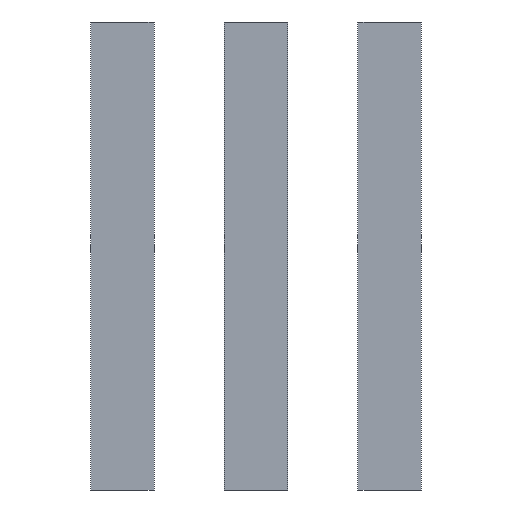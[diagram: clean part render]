
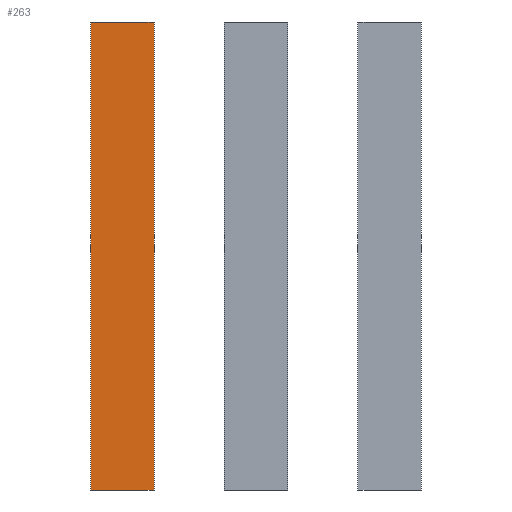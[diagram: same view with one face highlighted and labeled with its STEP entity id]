
A CAD part, front view. The second image highlights one B-rep face of the part: STEP entity #263.
In plain terms, the highlighted planar face has unit normal (0, -1, 0).
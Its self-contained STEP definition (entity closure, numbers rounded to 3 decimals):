
#47 = EDGE_CURVE('',#48,#50,#52,.T.);
#48 = VERTEX_POINT('',#49);
#49 = CARTESIAN_POINT('',(-36.,-34.,-115.));
#50 = VERTEX_POINT('',#51);
#51 = CARTESIAN_POINT('',(-36.,-34.,-45.));
#52 = SURFACE_CURVE('',#53,(#57,#69),.PCURVE_S1.);
#53 = LINE('',#54,#55);
#54 = CARTESIAN_POINT('',(-36.,-34.,-115.));
#55 = VECTOR('',#56,1.);
#56 = DIRECTION('',(0.,0.,1.));
#57 = PCURVE('',#58,#63);
#58 = PLANE('',#59);
#59 = AXIS2_PLACEMENT_3D('',#60,#61,#62);
#60 = CARTESIAN_POINT('',(-36.,-34.,-115.));
#61 = DIRECTION('',(1.,0.,0.));
#62 = DIRECTION('',(0.,0.,1.));
#63 = DEFINITIONAL_REPRESENTATION('',(#64),#68);
#64 = LINE('',#65,#66);
#65 = CARTESIAN_POINT('',(0.,0.));
#66 = VECTOR('',#67,1.);
#67 = DIRECTION('',(1.,0.));
#68 = ( GEOMETRIC_REPRESENTATION_CONTEXT(2) 
PARAMETRIC_REPRESENTATION_CONTEXT() REPRESENTATION_CONTEXT('2D SPACE',''
  ) );
#69 = PCURVE('',#70,#75);
#70 = PLANE('',#71);
#71 = AXIS2_PLACEMENT_3D('',#72,#73,#74);
#72 = CARTESIAN_POINT('',(-36.,-34.,-115.));
#73 = DIRECTION('',(0.,1.,0.));
#74 = DIRECTION('',(0.,0.,1.));
#75 = DEFINITIONAL_REPRESENTATION('',(#76),#80);
#76 = LINE('',#77,#78);
#77 = CARTESIAN_POINT('',(0.,0.));
#78 = VECTOR('',#79,1.);
#79 = DIRECTION('',(1.,0.));
#80 = ( GEOMETRIC_REPRESENTATION_CONTEXT(2) 
PARAMETRIC_REPRESENTATION_CONTEXT() REPRESENTATION_CONTEXT('2D SPACE',''
  ) );
#98 = PLANE('',#99);
#99 = AXIS2_PLACEMENT_3D('',#100,#101,#102);
#100 = CARTESIAN_POINT('',(-36.,-34.,-115.));
#101 = DIRECTION('',(0.,0.,1.));
#102 = DIRECTION('',(1.,0.,0.));
#152 = PLANE('',#153);
#153 = AXIS2_PLACEMENT_3D('',#154,#155,#156);
#154 = CARTESIAN_POINT('',(-36.,-34.,-45.));
#155 = DIRECTION('',(0.,0.,1.));
#156 = DIRECTION('',(1.,0.,0.));
#167 = EDGE_CURVE('',#168,#170,#172,.T.);
#168 = VERTEX_POINT('',#169);
#169 = CARTESIAN_POINT('',(-26.5,-34.,-115.));
#170 = VERTEX_POINT('',#171);
#171 = CARTESIAN_POINT('',(-26.5,-34.,-45.));
#172 = SURFACE_CURVE('',#173,(#177,#189),.PCURVE_S1.);
#173 = LINE('',#174,#175);
#174 = CARTESIAN_POINT('',(-26.5,-34.,-115.));
#175 = VECTOR('',#176,1.);
#176 = DIRECTION('',(0.,0.,1.));
#177 = PCURVE('',#178,#183);
#178 = PLANE('',#179);
#179 = AXIS2_PLACEMENT_3D('',#180,#181,#182);
#180 = CARTESIAN_POINT('',(-26.5,-34.,-115.));
#181 = DIRECTION('',(1.,0.,0.));
#182 = DIRECTION('',(0.,0.,1.));
#183 = DEFINITIONAL_REPRESENTATION('',(#184),#188);
#184 = LINE('',#185,#186);
#185 = CARTESIAN_POINT('',(0.,0.));
#186 = VECTOR('',#187,1.);
#187 = DIRECTION('',(1.,0.));
#188 = ( GEOMETRIC_REPRESENTATION_CONTEXT(2) 
PARAMETRIC_REPRESENTATION_CONTEXT() REPRESENTATION_CONTEXT('2D SPACE',''
  ) );
#189 = PCURVE('',#70,#190);
#190 = DEFINITIONAL_REPRESENTATION('',(#191),#195);
#191 = LINE('',#192,#193);
#192 = CARTESIAN_POINT('',(0.,9.5));
#193 = VECTOR('',#194,1.);
#194 = DIRECTION('',(1.,0.));
#195 = ( GEOMETRIC_REPRESENTATION_CONTEXT(2) 
PARAMETRIC_REPRESENTATION_CONTEXT() REPRESENTATION_CONTEXT('2D SPACE',''
  ) );
#263 = ADVANCED_FACE('',(#264),#70,.F.);
#264 = FACE_BOUND('',#265,.F.);
#265 = EDGE_LOOP('',(#266,#287,#288,#309));
#266 = ORIENTED_EDGE('',*,*,#267,.F.);
#267 = EDGE_CURVE('',#48,#168,#268,.T.);
#268 = SURFACE_CURVE('',#269,(#273,#280),.PCURVE_S1.);
#269 = LINE('',#270,#271);
#270 = CARTESIAN_POINT('',(-36.,-34.,-115.));
#271 = VECTOR('',#272,1.);
#272 = DIRECTION('',(1.,0.,0.));
#273 = PCURVE('',#70,#274);
#274 = DEFINITIONAL_REPRESENTATION('',(#275),#279);
#275 = LINE('',#276,#277);
#276 = CARTESIAN_POINT('',(0.,0.));
#277 = VECTOR('',#278,1.);
#278 = DIRECTION('',(0.,1.));
#279 = ( GEOMETRIC_REPRESENTATION_CONTEXT(2) 
PARAMETRIC_REPRESENTATION_CONTEXT() REPRESENTATION_CONTEXT('2D SPACE',''
  ) );
#280 = PCURVE('',#98,#281);
#281 = DEFINITIONAL_REPRESENTATION('',(#282),#286);
#282 = LINE('',#283,#284);
#283 = CARTESIAN_POINT('',(0.,0.));
#284 = VECTOR('',#285,1.);
#285 = DIRECTION('',(1.,0.));
#286 = ( GEOMETRIC_REPRESENTATION_CONTEXT(2) 
PARAMETRIC_REPRESENTATION_CONTEXT() REPRESENTATION_CONTEXT('2D SPACE',''
  ) );
#287 = ORIENTED_EDGE('',*,*,#47,.T.);
#288 = ORIENTED_EDGE('',*,*,#289,.T.);
#289 = EDGE_CURVE('',#50,#170,#290,.T.);
#290 = SURFACE_CURVE('',#291,(#295,#302),.PCURVE_S1.);
#291 = LINE('',#292,#293);
#292 = CARTESIAN_POINT('',(-36.,-34.,-45.));
#293 = VECTOR('',#294,1.);
#294 = DIRECTION('',(1.,0.,0.));
#295 = PCURVE('',#70,#296);
#296 = DEFINITIONAL_REPRESENTATION('',(#297),#301);
#297 = LINE('',#298,#299);
#298 = CARTESIAN_POINT('',(70.,0.));
#299 = VECTOR('',#300,1.);
#300 = DIRECTION('',(0.,1.));
#301 = ( GEOMETRIC_REPRESENTATION_CONTEXT(2) 
PARAMETRIC_REPRESENTATION_CONTEXT() REPRESENTATION_CONTEXT('2D SPACE',''
  ) );
#302 = PCURVE('',#152,#303);
#303 = DEFINITIONAL_REPRESENTATION('',(#304),#308);
#304 = LINE('',#305,#306);
#305 = CARTESIAN_POINT('',(0.,0.));
#306 = VECTOR('',#307,1.);
#307 = DIRECTION('',(1.,0.));
#308 = ( GEOMETRIC_REPRESENTATION_CONTEXT(2) 
PARAMETRIC_REPRESENTATION_CONTEXT() REPRESENTATION_CONTEXT('2D SPACE',''
  ) );
#309 = ORIENTED_EDGE('',*,*,#167,.F.);
